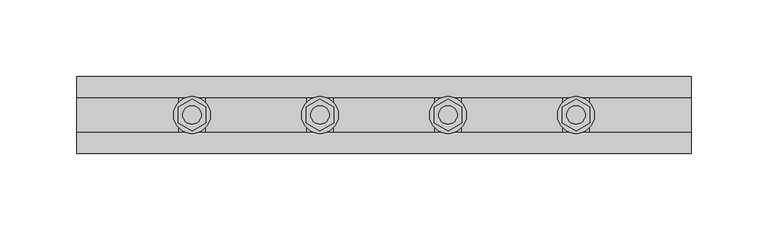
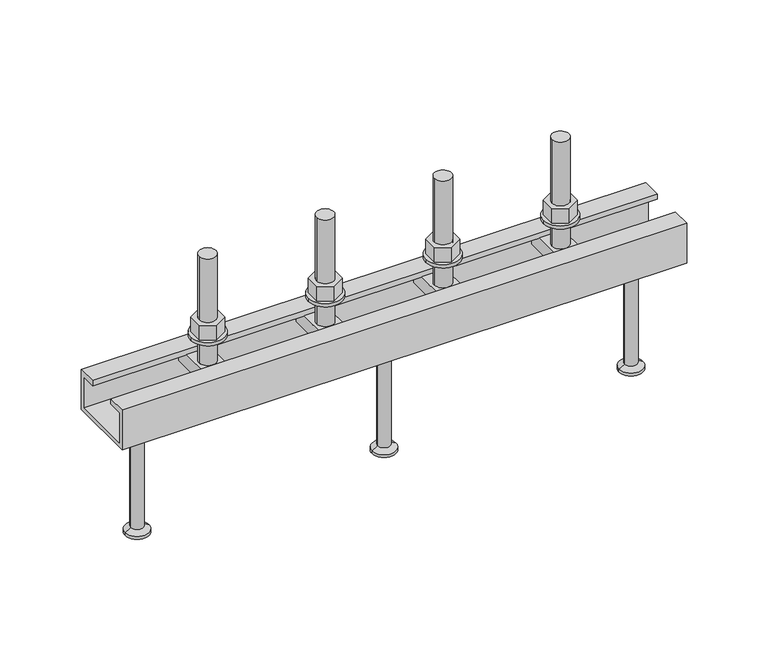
"""IFC4 building model written with IfcOpenShell, lengths in millimetres: fastener geometry, JTA-W JORDAHL® AnchorChannels : JTA-W L=400 mm."""

from ifc_helpers import new_model, si_unit, point, frame, frame_2d, origin, place, context, project, spatial, polyline, circle_curve, trimmed, segment, composite_curve, outline, extrude, source, transform, mapped, element, save
from ifc_brep_helpers import plane_surface, cylinder_surface, revolved_surface, advanced_brep


def fastener_29dfb67c(model_context):
    return source(origin(), model_context, "Body", "SolidModel", [
        extrude(outline(polyline([(241.6666667, -10.3923048), (232.6666667, -5.1961524), (232.6666667, 5.1961524), (241.6666667, 10.3923048), (250.6666667, 5.1961524), (250.6666667, -5.1961524), (241.6666667, -10.3923048)]), holes=[composite_curve([segment(trimmed(circle_curve(frame_2d((241.6666667, 0.0)), 6.0), [point((235.6666667, 0.0))], [point((247.6666667, 0.0))], True, "CARTESIAN"), True, "CONTINUOUS"), segment(trimmed(circle_curve(frame_2d((241.6666667, 0.0)), 6.0), [point((247.6666667, 0.0))], [point((235.6666667, 0.0))], True, "CARTESIAN"), True, "CONTINUOUS")], self_intersect=False)]), frame((0.0, 0.0, 17.5), z_axis=(0.0, 0.0, 1.0), x_axis=(1.0, 0.0, 0.0)), (0.0, 0.0, 1.0), 10.8),
        extrude(outline(composite_curve([segment(trimmed(circle_curve(frame_2d((241.6666667, 0.0)), 12.0), [point((229.6666667, 0.0))], [point((253.6666667, 0.0))], False, "CARTESIAN"), True, "CONTINUOUS"), segment(trimmed(circle_curve(frame_2d((241.6666667, 0.0)), 12.0), [point((253.6666667, 0.0))], [point((229.6666667, 0.0))], False, "CARTESIAN"), True, "CONTINUOUS")], self_intersect=False), holes=[composite_curve([segment(trimmed(circle_curve(frame_2d((241.6666667, 0.0)), 6.5), [point((235.1666667, 0.0))], [point((248.1666667, 0.0))], True, "CARTESIAN"), True, "CONTINUOUS"), segment(trimmed(circle_curve(frame_2d((241.6666667, 0.0)), 6.5), [point((248.1666667, 0.0))], [point((235.1666667, 0.0))], True, "CARTESIAN"), True, "CONTINUOUS")], self_intersect=False)]), frame((0.0, 0.0, 15.0), z_axis=(0.0, 0.0, 1.0), x_axis=(1.0, 0.0, 0.0)), (0.0, 0.0, 1.0), 2.5),
        extrude(outline(polyline([(158.3333333, -10.3923048), (149.3333333, -5.1961524), (149.3333333, 5.1961524), (158.3333333, 10.3923048), (167.3333333, 5.1961524), (167.3333333, -5.1961524), (158.3333333, -10.3923048)]), holes=[composite_curve([segment(trimmed(circle_curve(frame_2d((158.3333333, 0.0)), 6.0), [point((152.3333333, 0.0))], [point((164.3333333, 0.0))], True, "CARTESIAN"), True, "CONTINUOUS"), segment(trimmed(circle_curve(frame_2d((158.3333333, 0.0)), 6.0), [point((164.3333333, 0.0))], [point((152.3333333, 0.0))], True, "CARTESIAN"), True, "CONTINUOUS")], self_intersect=False)]), frame((0.0, 0.0, 17.5), z_axis=(0.0, 0.0, 1.0), x_axis=(1.0, 0.0, 0.0)), (0.0, 0.0, 1.0), 10.8),
        extrude(outline(composite_curve([segment(trimmed(circle_curve(frame_2d((158.3333333, 0.0)), 12.0), [point((146.3333333, 0.0))], [point((170.3333333, 0.0))], False, "CARTESIAN"), True, "CONTINUOUS"), segment(trimmed(circle_curve(frame_2d((158.3333333, 0.0)), 12.0), [point((170.3333333, 0.0))], [point((146.3333333, 0.0))], False, "CARTESIAN"), True, "CONTINUOUS")], self_intersect=False), holes=[composite_curve([segment(trimmed(circle_curve(frame_2d((158.3333333, 0.0)), 6.5), [point((151.8333333, 0.0))], [point((164.8333333, 0.0))], True, "CARTESIAN"), True, "CONTINUOUS"), segment(trimmed(circle_curve(frame_2d((158.3333333, 0.0)), 6.5), [point((164.8333333, 0.0))], [point((151.8333333, 0.0))], True, "CARTESIAN"), True, "CONTINUOUS")], self_intersect=False)]), frame((0.0, 0.0, 15.0), z_axis=(0.0, 0.0, 1.0), x_axis=(1.0, 0.0, 0.0)), (0.0, 0.0, 1.0), 2.5),
        advanced_brep(
        [(250.1666667, -20.7, -4.0), (250.1666667, -20.7, -14.0), (250.1666667, 20.7, -14.0), (250.1666667, 20.7, -4.0), (233.1666667, -20.7, -4.0), (233.1666667, 20.7, -4.0), (233.1666667, 20.7, -14.0), (233.1666667, -20.7, -14.0), (247.6666667, 0.0, -4.0), (235.6666667, 0.0, -4.0), (235.6666667, 0.0, 76.0), (247.6666667, 0.0, 76.0)],
        [
            (0, 1),
            (1, 2),
            (2, 3),
            (3, 0),
            (4, 5),
            (5, 6),
            (6, 7),
            (7, 4),
            (3, 5),
            (4, 0),
            (8, 9, circle_curve(frame((241.6666667, 0.0, -4.0), z_axis=(0.0, 0.0, -1.0), x_axis=(1.0, 0.0, 0.0)), 6.0)),
            (9, 8, circle_curve(frame((241.6666667, 0.0, -4.0), z_axis=(0.0, 0.0, -1.0), x_axis=(1.0, 0.0, 0.0)), 6.0)),
            (2, 6),
            (1, 7),
            (10, 11, circle_curve(frame((241.6666667, 0.0, 76.0), z_axis=(0.0, 0.0, 1.0), x_axis=(1.0, 0.0, 0.0)), 6.0)),
            (11, 10, circle_curve(frame((241.6666667, 0.0, 76.0), z_axis=(0.0, 0.0, 1.0), x_axis=(1.0, 0.0, 0.0)), 6.0)),
            (11, 8),
            (9, 10),
        ],
        [
            plane_surface(frame((250.1666667, 20.7, -4.0), z_axis=(1.0, 0.0, 0.0), x_axis=(0.0, 1.0, 0.0))),
            plane_surface(frame((233.1666667, 20.7, -4.0), z_axis=(-1.0, 0.0, 0.0), x_axis=(0.0, -1.0, 0.0))),
            plane_surface(frame((250.1666667, -20.7, -4.0), z_axis=(0.0, 0.0, 1.0), x_axis=(-1.0, 0.0, 0.0))),
            plane_surface(frame((250.1666667, 20.7, -4.0), z_axis=(0.0, 1.0, 0.0), x_axis=(-1.0, 0.0, 0.0))),
            plane_surface(frame((250.1666667, 20.7, -14.0), z_axis=(0.0, 0.0, -1.0), x_axis=(-1.0, 0.0, 0.0))),
            plane_surface(frame((250.1666667, -20.7, -14.0), z_axis=(0.0, -1.0, 0.0), x_axis=(-1.0, 0.0, 0.0))),
            plane_surface(frame((247.6666667, 0.0, 76.0), z_axis=(0.0, 0.0, 1.0), x_axis=(0.0, -1.0, 0.0))),
            cylinder_surface(frame((241.6666667, 0.0, -4.0), z_axis=(0.0, 0.0, 1.0), x_axis=(1.0, 0.0, 0.0)), 6.0),
        ],
        [
            (0, [[1, 2, 3, 4]]),
            (1, [[5, 6, 7, 8]]),
            (2, [[9, -5, 10, -4], [11, 12]]),
            (3, [[13, -6, -9, -3]]),
            (4, [[14, -7, -13, -2]]),
            (5, [[-10, -8, -14, -1]]),
            (6, [[15, 16]]),
            (7, [[17, -12, 18, -16]]),
            (7, [[-18, -11, -17, -15]]),
        ],
    ),
        advanced_brep(
        [(166.8333333, -20.7, -4.0), (166.8333333, -20.7, -14.0), (166.8333333, 20.7, -14.0), (166.8333333, 20.7, -4.0), (149.8333333, -20.7, -4.0), (149.8333333, 20.7, -4.0), (149.8333333, 20.7, -14.0), (149.8333333, -20.7, -14.0), (164.3333333, 0.0, -4.0), (152.3333333, 0.0, -4.0), (152.3333333, 0.0, 76.0), (164.3333333, 0.0, 76.0)],
        [
            (0, 1),
            (1, 2),
            (2, 3),
            (3, 0),
            (4, 5),
            (5, 6),
            (6, 7),
            (7, 4),
            (3, 5),
            (4, 0),
            (8, 9, circle_curve(frame((158.3333333, 0.0, -4.0), z_axis=(0.0, 0.0, -1.0), x_axis=(1.0, 0.0, 0.0)), 6.0)),
            (9, 8, circle_curve(frame((158.3333333, 0.0, -4.0), z_axis=(0.0, 0.0, -1.0), x_axis=(1.0, 0.0, 0.0)), 6.0)),
            (2, 6),
            (1, 7),
            (10, 11, circle_curve(frame((158.3333333, 0.0, 76.0), z_axis=(0.0, 0.0, 1.0), x_axis=(1.0, 0.0, 0.0)), 6.0)),
            (11, 10, circle_curve(frame((158.3333333, 0.0, 76.0), z_axis=(0.0, 0.0, 1.0), x_axis=(1.0, 0.0, 0.0)), 6.0)),
            (11, 8),
            (9, 10),
        ],
        [
            plane_surface(frame((166.8333333, 20.7, -4.0), z_axis=(1.0, 0.0, 0.0), x_axis=(0.0, 1.0, 0.0))),
            plane_surface(frame((149.8333333, 20.7, -4.0), z_axis=(-1.0, 0.0, 0.0), x_axis=(0.0, -1.0, 0.0))),
            plane_surface(frame((166.8333333, -20.7, -4.0), z_axis=(0.0, 0.0, 1.0), x_axis=(-1.0, 0.0, 0.0))),
            plane_surface(frame((166.8333333, 20.7, -4.0), z_axis=(0.0, 1.0, 0.0), x_axis=(-1.0, 0.0, 0.0))),
            plane_surface(frame((166.8333333, 20.7, -14.0), z_axis=(0.0, 0.0, -1.0), x_axis=(-1.0, 0.0, 0.0))),
            plane_surface(frame((166.8333333, -20.7, -14.0), z_axis=(0.0, -1.0, 0.0), x_axis=(-1.0, 0.0, 0.0))),
            plane_surface(frame((164.3333333, 0.0, 76.0), z_axis=(0.0, 0.0, 1.0), x_axis=(0.0, -1.0, 0.0))),
            cylinder_surface(frame((158.3333333, 0.0, -4.0), z_axis=(0.0, 0.0, 1.0), x_axis=(1.0, 0.0, 0.0)), 6.0),
        ],
        [
            (0, [[1, 2, 3, 4]]),
            (1, [[5, 6, 7, 8]]),
            (2, [[9, -5, 10, -4], [11, 12]]),
            (3, [[13, -6, -9, -3]]),
            (4, [[14, -7, -13, -2]]),
            (5, [[-10, -8, -14, -1]]),
            (6, [[15, 16]]),
            (7, [[17, -12, 18, -16]]),
            (7, [[-18, -11, -17, -15]]),
        ],
    ),
        advanced_brep(
        [(200.0, 0.0, -30.0), (186.5, 0.0, -30.0), (213.5, 0.0, -30.0), (191.5, 0.0, -115.0), (200.0, 0.0, -115.0), (208.5, 0.0, -115.0), (191.5, 0.0, -113.0), (208.5, 0.0, -113.0), (195.5, 0.0, -110.6905989), (204.5, 0.0, -110.6905989), (195.5, 0.0, -32.5), (204.5, 0.0, -32.5)],
        [
            (0, 1),
            (1, 2, circle_curve(frame((200.0, 0.0, -30.0), z_axis=(0.0, 0.0, 1.0), x_axis=(1.0, 0.0, 0.0)), 13.5)),
            (2, 0),
            (2, 1, circle_curve(frame((200.0, 0.0, -30.0), z_axis=(0.0, 0.0, 1.0), x_axis=(1.0, 0.0, 0.0)), 13.5)),
            (3, 4),
            (4, 5),
            (5, 3, circle_curve(frame((200.0, 0.0, -115.0), z_axis=(0.0, 0.0, -1.0), x_axis=(1.0, 0.0, 0.0)), 8.5)),
            (3, 5, circle_curve(frame((200.0, 0.0, -115.0), z_axis=(0.0, 0.0, -1.0), x_axis=(1.0, 0.0, 0.0)), 8.5)),
            (6, 3),
            (5, 7),
            (7, 6, circle_curve(frame((200.0, 0.0, -113.0), z_axis=(0.0, 0.0, -1.0), x_axis=(1.0, 0.0, 0.0)), 8.5)),
            (6, 7, circle_curve(frame((200.0, 0.0, -113.0), z_axis=(0.0, 0.0, -1.0), x_axis=(1.0, 0.0, 0.0)), 8.5)),
            (8, 6),
            (7, 9),
            (9, 8, circle_curve(frame((200.0, 0.0, -110.6905989), z_axis=(0.0, 0.0, -1.0), x_axis=(1.0, 0.0, 0.0)), 4.5)),
            (8, 9, circle_curve(frame((200.0, 0.0, -110.6905989), z_axis=(0.0, 0.0, -1.0), x_axis=(1.0, 0.0, 0.0)), 4.5)),
            (10, 8),
            (9, 11),
            (11, 10, circle_curve(frame((200.0, 0.0, -32.5), z_axis=(0.0, 0.0, -1.0), x_axis=(1.0, 0.0, 0.0)), 4.5)),
            (10, 11, circle_curve(frame((200.0, 0.0, -32.5), z_axis=(0.0, 0.0, -1.0), x_axis=(1.0, 0.0, 0.0)), 4.5)),
            (1, 10),
            (11, 2),
        ],
        [
            plane_surface(frame((200.0, 0.0, -30.0), z_axis=(0.0, 0.0, 1.0), x_axis=(1.0, 0.0, 0.0))),
            plane_surface(frame((200.0, 0.0, -115.0), z_axis=(0.0, 0.0, -1.0), x_axis=(1.0, 0.0, 0.0))),
            cylinder_surface(frame((200.0, 0.0, 2299.3150031), z_axis=(0.0, 0.0, 1.0), x_axis=(1.0, 0.0, 0.0)), 8.5),
            revolved_surface(polyline([(208.5, 0.0, -113.0), (204.5, 0.0, -110.6905989)]), (200.0, 0.0, 2299.3150031), (0.0, 0.0, 1.0)),
            cylinder_surface(frame((200.0, 0.0, 2299.3150031), z_axis=(0.0, 0.0, 1.0), x_axis=(1.0, 0.0, 0.0)), 4.5),
            revolved_surface(polyline([(204.5, 0.0, -32.5), (213.5, 0.0, -30.0)]), (200.0, 0.0, 2299.3150031), (0.0, 0.0, 1.0)),
        ],
        [
            (0, [[1, 2, 3]]),
            (0, [[-3, 4, -1]]),
            (1, [[5, 6, 7]]),
            (1, [[-6, -5, 8]]),
            (2, [[9, -7, 10, 11]]),
            (2, [[-10, -8, -9, 12]]),
            (3, [[13, -11, 14, 15]]),
            (3, [[-14, -12, -13, 16]]),
            (4, [[17, -15, 18, 19]]),
            (4, [[-18, -16, -17, 20]]),
            (5, [[21, -19, 22, -2]]),
            (5, [[-22, -20, -21, -4]]),
        ],
    ),
        extrude(outline(polyline([(325.0, -10.3923048), (316.0, -5.1961524), (316.0, 5.1961524), (325.0, 10.3923048), (334.0, 5.1961524), (334.0, -5.1961524), (325.0, -10.3923048)]), holes=[composite_curve([segment(trimmed(circle_curve(frame_2d((325.0, 0.0)), 6.0), [point((319.0, 0.0))], [point((331.0, 0.0))], True, "CARTESIAN"), True, "CONTINUOUS"), segment(trimmed(circle_curve(frame_2d((325.0, 0.0)), 6.0), [point((331.0, 0.0))], [point((319.0, 0.0))], True, "CARTESIAN"), True, "CONTINUOUS")], self_intersect=False)]), frame((0.0, 0.0, 17.5), z_axis=(0.0, 0.0, 1.0), x_axis=(1.0, 0.0, 0.0)), (0.0, 0.0, 1.0), 10.8),
        extrude(outline(composite_curve([segment(trimmed(circle_curve(frame_2d((325.0, 0.0)), 12.0), [point((313.0, 0.0))], [point((337.0, 0.0))], False, "CARTESIAN"), True, "CONTINUOUS"), segment(trimmed(circle_curve(frame_2d((325.0, 0.0)), 12.0), [point((337.0, 0.0))], [point((313.0, 0.0))], False, "CARTESIAN"), True, "CONTINUOUS")], self_intersect=False), holes=[composite_curve([segment(trimmed(circle_curve(frame_2d((325.0, 0.0)), 6.5), [point((318.5, 0.0))], [point((331.5, 0.0))], True, "CARTESIAN"), True, "CONTINUOUS"), segment(trimmed(circle_curve(frame_2d((325.0, 0.0)), 6.5), [point((331.5, 0.0))], [point((318.5, 0.0))], True, "CARTESIAN"), True, "CONTINUOUS")], self_intersect=False)]), frame((0.0, 0.0, 15.0), z_axis=(0.0, 0.0, 1.0), x_axis=(1.0, 0.0, 0.0)), (0.0, 0.0, 1.0), 2.5),
        extrude(outline(polyline([(75.0, -10.3923048), (66.0, -5.1961524), (66.0, 5.1961524), (75.0, 10.3923048), (84.0, 5.1961524), (84.0, -5.1961524), (75.0, -10.3923048)]), holes=[composite_curve([segment(trimmed(circle_curve(frame_2d((75.0, 0.0)), 6.0), [point((69.0, 0.0))], [point((81.0, 0.0))], True, "CARTESIAN"), True, "CONTINUOUS"), segment(trimmed(circle_curve(frame_2d((75.0, 0.0)), 6.0), [point((81.0, 0.0))], [point((69.0, 0.0))], True, "CARTESIAN"), True, "CONTINUOUS")], self_intersect=False)]), frame((0.0, 0.0, 17.5), z_axis=(0.0, 0.0, 1.0), x_axis=(1.0, 0.0, 0.0)), (0.0, 0.0, 1.0), 10.8),
        extrude(outline(composite_curve([segment(trimmed(circle_curve(frame_2d((75.0, 0.0)), 12.0), [point((63.0, 0.0))], [point((87.0, 0.0))], False, "CARTESIAN"), True, "CONTINUOUS"), segment(trimmed(circle_curve(frame_2d((75.0, 0.0)), 12.0), [point((87.0, 0.0))], [point((63.0, 0.0))], False, "CARTESIAN"), True, "CONTINUOUS")], self_intersect=False), holes=[composite_curve([segment(trimmed(circle_curve(frame_2d((75.0, 0.0)), 6.5), [point((68.5, 0.0))], [point((81.5, 0.0))], True, "CARTESIAN"), True, "CONTINUOUS"), segment(trimmed(circle_curve(frame_2d((75.0, 0.0)), 6.5), [point((81.5, 0.0))], [point((68.5, 0.0))], True, "CARTESIAN"), True, "CONTINUOUS")], self_intersect=False)]), frame((0.0, 0.0, 15.0), z_axis=(0.0, 0.0, 1.0), x_axis=(1.0, 0.0, 0.0)), (0.0, 0.0, 1.0), 2.5),
        advanced_brep(
        [(333.5, -20.7, -4.0), (333.5, -20.7, -14.0), (333.5, 20.7, -14.0), (333.5, 20.7, -4.0), (316.5, -20.7, -4.0), (316.5, 20.7, -4.0), (316.5, 20.7, -14.0), (316.5, -20.7, -14.0), (331.0, 0.0, -4.0), (319.0, 0.0, -4.0), (319.0, 0.0, 76.0), (331.0, 0.0, 76.0)],
        [
            (0, 1),
            (1, 2),
            (2, 3),
            (3, 0),
            (4, 5),
            (5, 6),
            (6, 7),
            (7, 4),
            (3, 5),
            (4, 0),
            (8, 9, circle_curve(frame((325.0, 0.0, -4.0), z_axis=(0.0, 0.0, -1.0), x_axis=(1.0, 0.0, 0.0)), 6.0)),
            (9, 8, circle_curve(frame((325.0, 0.0, -4.0), z_axis=(0.0, 0.0, -1.0), x_axis=(1.0, 0.0, 0.0)), 6.0)),
            (2, 6),
            (1, 7),
            (10, 11, circle_curve(frame((325.0, 0.0, 76.0), z_axis=(0.0, 0.0, 1.0), x_axis=(1.0, 0.0, 0.0)), 6.0)),
            (11, 10, circle_curve(frame((325.0, 0.0, 76.0), z_axis=(0.0, 0.0, 1.0), x_axis=(1.0, 0.0, 0.0)), 6.0)),
            (11, 8),
            (9, 10),
        ],
        [
            plane_surface(frame((333.5, 20.7, -4.0), z_axis=(1.0, 0.0, 0.0), x_axis=(0.0, 1.0, 0.0))),
            plane_surface(frame((316.5, 20.7, -4.0), z_axis=(-1.0, 0.0, 0.0), x_axis=(0.0, -1.0, 0.0))),
            plane_surface(frame((333.5, -20.7, -4.0), z_axis=(0.0, 0.0, 1.0), x_axis=(-1.0, 0.0, 0.0))),
            plane_surface(frame((333.5, 20.7, -4.0), z_axis=(0.0, 1.0, 0.0), x_axis=(-1.0, 0.0, 0.0))),
            plane_surface(frame((333.5, 20.7, -14.0), z_axis=(0.0, 0.0, -1.0), x_axis=(-1.0, 0.0, 0.0))),
            plane_surface(frame((333.5, -20.7, -14.0), z_axis=(0.0, -1.0, 0.0), x_axis=(-1.0, 0.0, 0.0))),
            plane_surface(frame((331.0, 0.0, 76.0), z_axis=(0.0, 0.0, 1.0), x_axis=(0.0, -1.0, 0.0))),
            cylinder_surface(frame((325.0, 0.0, -4.0), z_axis=(0.0, 0.0, 1.0), x_axis=(1.0, 0.0, 0.0)), 6.0),
        ],
        [
            (0, [[1, 2, 3, 4]]),
            (1, [[5, 6, 7, 8]]),
            (2, [[9, -5, 10, -4], [11, 12]]),
            (3, [[13, -6, -9, -3]]),
            (4, [[14, -7, -13, -2]]),
            (5, [[-10, -8, -14, -1]]),
            (6, [[15, 16]]),
            (7, [[17, -12, 18, -16]]),
            (7, [[-18, -11, -17, -15]]),
        ],
    ),
        advanced_brep(
        [(83.5, -20.7, -4.0), (83.5, -20.7, -14.0), (83.5, 20.7, -14.0), (83.5, 20.7, -4.0), (66.5, -20.7, -4.0), (66.5, 20.7, -4.0), (66.5, 20.7, -14.0), (66.5, -20.7, -14.0), (81.0, 0.0, -4.0), (69.0, 0.0, -4.0), (69.0, 0.0, 76.0), (81.0, 0.0, 76.0)],
        [
            (0, 1),
            (1, 2),
            (2, 3),
            (3, 0),
            (4, 5),
            (5, 6),
            (6, 7),
            (7, 4),
            (3, 5),
            (4, 0),
            (8, 9, circle_curve(frame((75.0, 0.0, -4.0), z_axis=(0.0, 0.0, -1.0), x_axis=(1.0, 0.0, 0.0)), 6.0)),
            (9, 8, circle_curve(frame((75.0, 0.0, -4.0), z_axis=(0.0, 0.0, -1.0), x_axis=(1.0, 0.0, 0.0)), 6.0)),
            (2, 6),
            (1, 7),
            (10, 11, circle_curve(frame((75.0, 0.0, 76.0), z_axis=(0.0, 0.0, 1.0), x_axis=(1.0, 0.0, 0.0)), 6.0)),
            (11, 10, circle_curve(frame((75.0, 0.0, 76.0), z_axis=(0.0, 0.0, 1.0), x_axis=(1.0, 0.0, 0.0)), 6.0)),
            (11, 8),
            (9, 10),
        ],
        [
            plane_surface(frame((83.5, 20.7, -4.0), z_axis=(1.0, 0.0, 0.0), x_axis=(0.0, 1.0, 0.0))),
            plane_surface(frame((66.5, 20.7, -4.0), z_axis=(-1.0, 0.0, 0.0), x_axis=(0.0, -1.0, 0.0))),
            plane_surface(frame((83.5, -20.7, -4.0), z_axis=(0.0, 0.0, 1.0), x_axis=(-1.0, 0.0, 0.0))),
            plane_surface(frame((83.5, 20.7, -4.0), z_axis=(0.0, 1.0, 0.0), x_axis=(-1.0, 0.0, 0.0))),
            plane_surface(frame((83.5, 20.7, -14.0), z_axis=(0.0, 0.0, -1.0), x_axis=(-1.0, 0.0, 0.0))),
            plane_surface(frame((83.5, -20.7, -14.0), z_axis=(0.0, -1.0, 0.0), x_axis=(-1.0, 0.0, 0.0))),
            plane_surface(frame((81.0, 0.0, 76.0), z_axis=(0.0, 0.0, 1.0), x_axis=(0.0, -1.0, 0.0))),
            cylinder_surface(frame((75.0, 0.0, -4.0), z_axis=(0.0, 0.0, 1.0), x_axis=(1.0, 0.0, 0.0)), 6.0),
        ],
        [
            (0, [[1, 2, 3, 4]]),
            (1, [[5, 6, 7, 8]]),
            (2, [[9, -5, 10, -4], [11, 12]]),
            (3, [[13, -6, -9, -3]]),
            (4, [[14, -7, -13, -2]]),
            (5, [[-10, -8, -14, -1]]),
            (6, [[15, 16]]),
            (7, [[17, -12, 18, -16]]),
            (7, [[-18, -11, -17, -15]]),
        ],
    ),
        advanced_brep(
        [(375.0, 0.0, -30.0), (361.5, 0.0, -30.0), (388.5, 0.0, -30.0), (366.5, 0.0, -115.0), (375.0, 0.0, -115.0), (383.5, 0.0, -115.0), (366.5, 0.0, -113.0), (383.5, 0.0, -113.0), (370.5, 0.0, -110.6905989), (379.5, 0.0, -110.6905989), (370.5, 0.0, -32.5), (379.5, 0.0, -32.5)],
        [
            (0, 1),
            (1, 2, circle_curve(frame((375.0, 0.0, -30.0), z_axis=(0.0, 0.0, 1.0), x_axis=(1.0, 0.0, 0.0)), 13.5)),
            (2, 0),
            (2, 1, circle_curve(frame((375.0, 0.0, -30.0), z_axis=(0.0, 0.0, 1.0), x_axis=(1.0, 0.0, 0.0)), 13.5)),
            (3, 4),
            (4, 5),
            (5, 3, circle_curve(frame((375.0, 0.0, -115.0), z_axis=(0.0, 0.0, -1.0), x_axis=(1.0, 0.0, 0.0)), 8.5)),
            (3, 5, circle_curve(frame((375.0, 0.0, -115.0), z_axis=(0.0, 0.0, -1.0), x_axis=(1.0, 0.0, 0.0)), 8.5)),
            (6, 3),
            (5, 7),
            (7, 6, circle_curve(frame((375.0, 0.0, -113.0), z_axis=(0.0, 0.0, -1.0), x_axis=(1.0, 0.0, 0.0)), 8.5)),
            (6, 7, circle_curve(frame((375.0, 0.0, -113.0), z_axis=(0.0, 0.0, -1.0), x_axis=(1.0, 0.0, 0.0)), 8.5)),
            (8, 6),
            (7, 9),
            (9, 8, circle_curve(frame((375.0, 0.0, -110.6905989), z_axis=(0.0, 0.0, -1.0), x_axis=(1.0, 0.0, 0.0)), 4.5)),
            (8, 9, circle_curve(frame((375.0, 0.0, -110.6905989), z_axis=(0.0, 0.0, -1.0), x_axis=(1.0, 0.0, 0.0)), 4.5)),
            (10, 8),
            (9, 11),
            (11, 10, circle_curve(frame((375.0, 0.0, -32.5), z_axis=(0.0, 0.0, -1.0), x_axis=(1.0, 0.0, 0.0)), 4.5)),
            (10, 11, circle_curve(frame((375.0, 0.0, -32.5), z_axis=(0.0, 0.0, -1.0), x_axis=(1.0, 0.0, 0.0)), 4.5)),
            (1, 10),
            (11, 2),
        ],
        [
            plane_surface(frame((375.0, 0.0, -30.0), z_axis=(0.0, 0.0, 1.0), x_axis=(1.0, 0.0, 0.0))),
            plane_surface(frame((375.0, 0.0, -115.0), z_axis=(0.0, 0.0, -1.0), x_axis=(1.0, 0.0, 0.0))),
            cylinder_surface(frame((375.0, 0.0, 2299.3150031), z_axis=(0.0, 0.0, 1.0), x_axis=(1.0, 0.0, 0.0)), 8.5),
            revolved_surface(polyline([(383.5, 0.0, -113.0), (379.5, 0.0, -110.6905989)]), (375.0, 0.0, 2299.3150031), (0.0, 0.0, 1.0)),
            cylinder_surface(frame((375.0, 0.0, 2299.3150031), z_axis=(0.0, 0.0, 1.0), x_axis=(1.0, 0.0, 0.0)), 4.5),
            revolved_surface(polyline([(379.5, 0.0, -32.5), (388.5, 0.0, -30.0)]), (375.0, 0.0, 2299.3150031), (0.0, 0.0, 1.0)),
        ],
        [
            (0, [[1, 2, 3]]),
            (0, [[-3, 4, -1]]),
            (1, [[5, 6, 7]]),
            (1, [[-6, -5, 8]]),
            (2, [[9, -7, 10, 11]]),
            (2, [[-10, -8, -9, 12]]),
            (3, [[13, -11, 14, 15]]),
            (3, [[-14, -12, -13, 16]]),
            (4, [[17, -15, 18, 19]]),
            (4, [[-18, -16, -17, 20]]),
            (5, [[21, -19, 22, -2]]),
            (5, [[-22, -20, -21, -4]]),
        ],
    ),
        advanced_brep(
        [(25.0, 0.0, -30.0), (11.5, 0.0, -30.0), (38.5, 0.0, -30.0), (16.5, 0.0, -115.0), (25.0, 0.0, -115.0), (33.5, 0.0, -115.0), (16.5, 0.0, -113.0), (33.5, 0.0, -113.0), (20.5, 0.0, -110.6905989), (29.5, 0.0, -110.6905989), (20.5, 0.0, -32.5), (29.5, 0.0, -32.5)],
        [
            (0, 1),
            (1, 2, circle_curve(frame((25.0, 0.0, -30.0), z_axis=(0.0, 0.0, 1.0), x_axis=(1.0, 0.0, 0.0)), 13.5)),
            (2, 0),
            (2, 1, circle_curve(frame((25.0, 0.0, -30.0), z_axis=(0.0, 0.0, 1.0), x_axis=(1.0, 0.0, 0.0)), 13.5)),
            (3, 4),
            (4, 5),
            (5, 3, circle_curve(frame((25.0, 0.0, -115.0), z_axis=(0.0, 0.0, -1.0), x_axis=(1.0, 0.0, 0.0)), 8.5)),
            (3, 5, circle_curve(frame((25.0, 0.0, -115.0), z_axis=(0.0, 0.0, -1.0), x_axis=(1.0, 0.0, 0.0)), 8.5)),
            (6, 3),
            (5, 7),
            (7, 6, circle_curve(frame((25.0, 0.0, -113.0), z_axis=(0.0, 0.0, -1.0), x_axis=(1.0, 0.0, 0.0)), 8.5)),
            (6, 7, circle_curve(frame((25.0, 0.0, -113.0), z_axis=(0.0, 0.0, -1.0), x_axis=(1.0, 0.0, 0.0)), 8.5)),
            (8, 6),
            (7, 9),
            (9, 8, circle_curve(frame((25.0, 0.0, -110.6905989), z_axis=(0.0, 0.0, -1.0), x_axis=(1.0, 0.0, 0.0)), 4.5)),
            (8, 9, circle_curve(frame((25.0, 0.0, -110.6905989), z_axis=(0.0, 0.0, -1.0), x_axis=(1.0, 0.0, 0.0)), 4.5)),
            (10, 8),
            (9, 11),
            (11, 10, circle_curve(frame((25.0, 0.0, -32.5), z_axis=(0.0, 0.0, -1.0), x_axis=(1.0, 0.0, 0.0)), 4.5)),
            (10, 11, circle_curve(frame((25.0, 0.0, -32.5), z_axis=(0.0, 0.0, -1.0), x_axis=(1.0, 0.0, 0.0)), 4.5)),
            (1, 10),
            (11, 2),
        ],
        [
            plane_surface(frame((25.0, 0.0, -30.0), z_axis=(0.0, 0.0, 1.0), x_axis=(1.0, 0.0, 0.0))),
            plane_surface(frame((25.0, 0.0, -115.0), z_axis=(0.0, 0.0, -1.0), x_axis=(1.0, 0.0, 0.0))),
            cylinder_surface(frame((25.0, 0.0, 2299.3150031), z_axis=(0.0, 0.0, 1.0), x_axis=(1.0, 0.0, 0.0)), 8.5),
            revolved_surface(polyline([(33.5, 0.0, -113.0), (29.5, 0.0, -110.6905989)]), (25.0, 0.0, 2299.3150031), (0.0, 0.0, 1.0)),
            cylinder_surface(frame((25.0, 0.0, 2299.3150031), z_axis=(0.0, 0.0, 1.0), x_axis=(1.0, 0.0, 0.0)), 4.5),
            revolved_surface(polyline([(29.5, 0.0, -32.5), (38.5, 0.0, -30.0)]), (25.0, 0.0, 2299.3150031), (0.0, 0.0, 1.0)),
        ],
        [
            (0, [[1, 2, 3]]),
            (0, [[-3, 4, -1]]),
            (1, [[5, 6, 7]]),
            (1, [[-6, -5, 8]]),
            (2, [[9, -7, 10, 11]]),
            (2, [[-10, -8, -9, 12]]),
            (3, [[13, -11, 14, 15]]),
            (3, [[-14, -12, -13, 16]]),
            (4, [[17, -15, 18, 19]]),
            (4, [[-18, -16, -17, 20]]),
            (5, [[21, -19, 22, -2]]),
            (5, [[-22, -20, -21, -4]]),
        ],
    ),
        extrude(outline(polyline([(-25.0, 0.0), (-11.25, 0.0), (-11.25, -4.0), (-22.2, -4.0), (-22.2, -27.2), (22.2, -27.2), (22.2, -4.0), (11.25, -4.0), (11.25, 0.0), (25.0, 0.0), (25.0, -30.0), (-25.0, -30.0), (-25.0, 0.0)])), frame((0.0, 0.0, 0.0), z_axis=(1.0, 0.0, 0.0), x_axis=(0.0, 1.0, 0.0)), (0.0, 0.0, 1.0), 400.0),
    ])


if __name__ == "__main__":
    model = new_model("IFC4")
    model_context = context("Model", 3, world=origin())
    ifc_project = project(units=[si_unit("LENGTHUNIT", "METRE", prefix="MILLI")], contexts=[model_context])
    site = spatial("IfcSite", under=ifc_project)
    building = spatial("IfcBuilding", under=site)
    placement = place(None, origin())
    fastener_shape = fastener_29dfb67c(model_context)
    element("IfcFastener", 1, ObjectType="JTA-W JORDAHL® AnchorChannels : JTA-W L=400 mm", at=placement, inside=building, context=model_context, shape_type="MappedRepresentation", body=[
        mapped(fastener_shape, transform((0.0, 0.0, 0.0), x_axis=(1.0, 0.0, 0.0), y_axis=(0.0, 1.0, 0.0), z_axis=(0.0, 0.0, 1.0))),
    ])
    save(model, "model.ifc")
